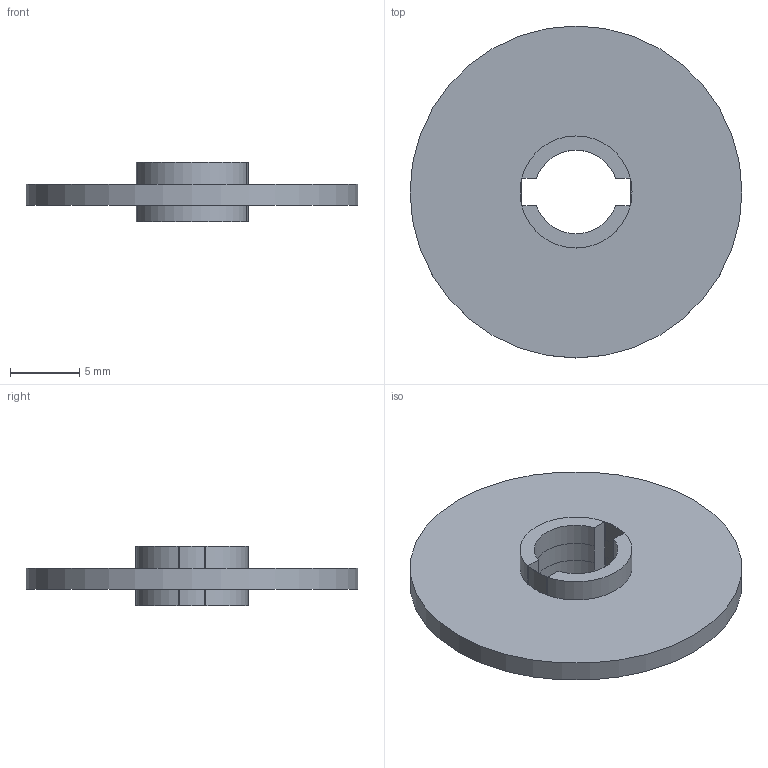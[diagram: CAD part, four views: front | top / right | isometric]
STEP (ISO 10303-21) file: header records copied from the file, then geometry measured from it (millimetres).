
FILE_DESCRIPTION(('Open CASCADE Model'),'2;1');
FILE_NAME('Open CASCADE Shape Model','2026-09-24T02:53:19',('Author'),( 'Open CASCADE'),'Open CASCADE STEP processor 7.8','Open CASCADE 7.8' ,'Unknown');
FILE_SCHEMA(('AUTOMOTIVE_DESIGN { 1 0 10303 214 1 1 1 1 }'));
Length unit declared in the file: millimetre
Products named in the file (1): Open CASCADE STEP translator 7.8 17
Bounding box: 24 x 24 x 4.3 mm (x, y, z)
Volume: 682.3 mm3; surface area: 1121.2 mm2
Topology: 1 solids, 1 shells, 33 faces, 93 edges, 62 vertices
Faces by surface type: cylinder 17, plane 16
Full cylindrical faces by diameter (mm): 24 x1
Entity records: 2300 total; most frequent: DIRECTION 377, CARTESIAN_POINT 375, LINE 223, VECTOR 223, ORIENTED_EDGE 186, PCURVE 186, DEFINITIONAL_REPRESENTATION 186, EDGE_CURVE 93
